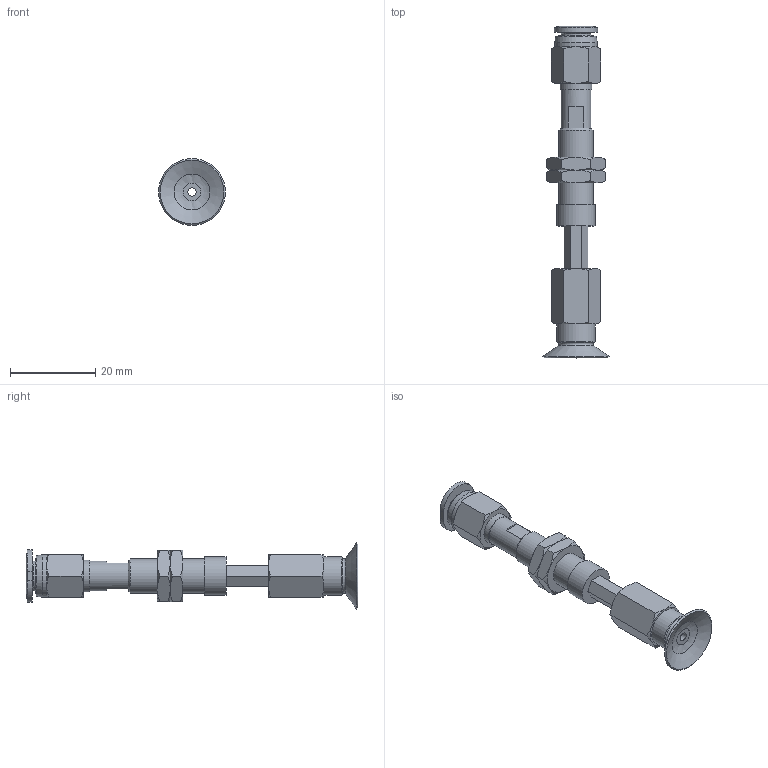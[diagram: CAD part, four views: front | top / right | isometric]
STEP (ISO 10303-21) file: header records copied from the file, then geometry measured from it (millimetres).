
FILE_DESCRIPTION(('STEP AP203'),'1');
FILE_NAME('-O.stp','2025-08-27T03:15:20',(' '),(' '),'Spatial InterOp 3D',' ',' ');
FILE_SCHEMA(('CONFIG_CONTROL_DESIGN'));
Length unit declared in the file: millimetre
Products named in the file (7): BNABPFTH-15A-10-※-O; ADAPTER; NAPATH-10A-10--M; Nut-15A-10-h; NAPFTH-15A-10-FBODY; BPFG-15A-※; PC-C_06-M5
Assembly tree (7 placements, depth 2):
  BNABPFTH-15A-10-※-O
    ADAPTER
    NAPATH-10A-10--M
    Nut-15A-10-h  x2
    NAPFTH-15A-10-FBODY
    BPFG-15A-※
    PC-C_06-M5
Bounding box: 15.7 x 77.98 x 15.7 mm (x, y, z)
Volume: 3612.7 mm3; surface area: 5424.4 mm2
Topology: 6 solids, 9 shells, 174 faces, 366 edges, 222 vertices
Faces by surface type: plane 70, cone 62, cylinder 23, torus 11, bspline 5, revolution 3
Full cylindrical faces by diameter (mm): 2 x3, 4 x4, 4.134 x1, 5 x1, 6 x2, 7 x2, 7.188 x2, 7.4 x1, 8 x1, 8.2 x1, 9 x2, 10 x1
Entity records: 4515 total; most frequent: CARTESIAN_POINT 1271, DIRECTION 597, ORIENTED_EDGE 522, EDGE_CURVE 263, AXIS2_PLACEMENT_3D 259, EDGE_LOOP 222, VERTEX_POINT 185, FACE_OUTER_BOUND 123
